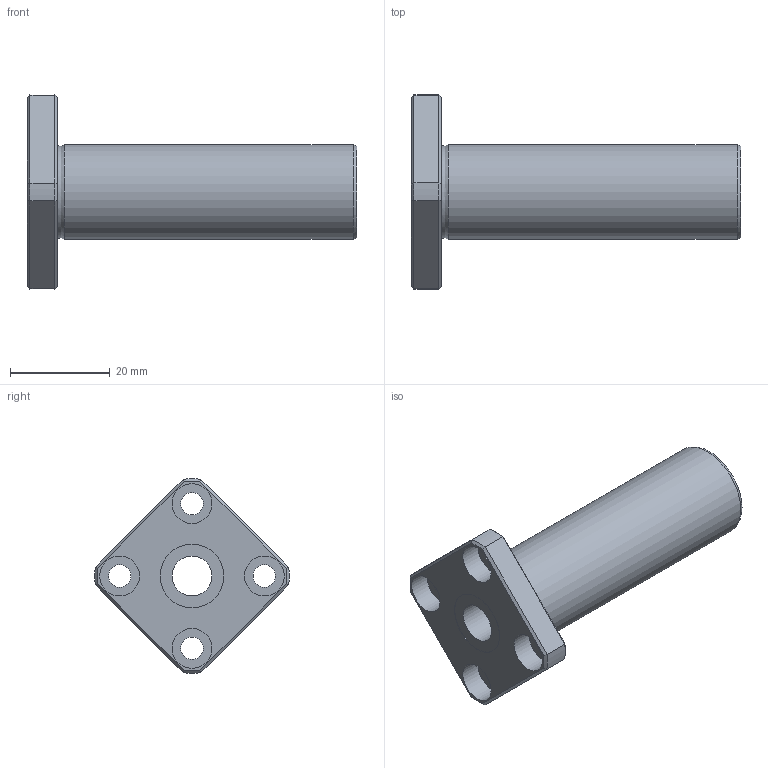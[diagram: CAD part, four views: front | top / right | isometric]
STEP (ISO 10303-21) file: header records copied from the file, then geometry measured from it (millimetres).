
FILE_DESCRIPTION((''),'2;1');
FILE_NAME('D:\製品 (図面)\カタログ用3D\リニアベアリング関連\STEP形式\LFLK\LFLK8.stp','2010-06-04T09:07:24',('Tsuchiya'),(''),'Autodesk Inventor 10','Autodesk Inventor 10','');
FILE_SCHEMA(('AUTOMOTIVE_DESIGN { 1 0 10303 214 1 1 1 1 }'));
Length unit declared in the file: millimetre
Products named in the file (1): LFLK8
Bounding box: 66 x 38.98 x 38.98 mm (x, y, z)
Volume: 17979.6 mm3; surface area: 7935.3 mm2
Topology: 1 solids, 1 shells, 47 faces, 96 edges, 58 vertices
Faces by surface type: plane 21, cylinder 16, cone 8, torus 1, bspline 1
Full cylindrical faces by diameter (mm): 4.5 x4, 8 x5, 12.8 x2, 19 x1
Entity records: 1275 total; most frequent: CARTESIAN_POINT 298, DIRECTION 202, ORIENTED_EDGE 164, AXIS2_PLACEMENT_3D 89, EDGE_CURVE 82, EDGE_LOOP 78, VERTEX_POINT 58, FACE_OUTER_BOUND 47
